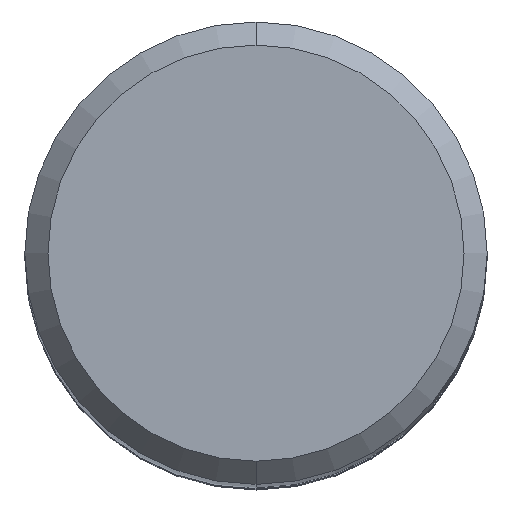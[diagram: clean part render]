
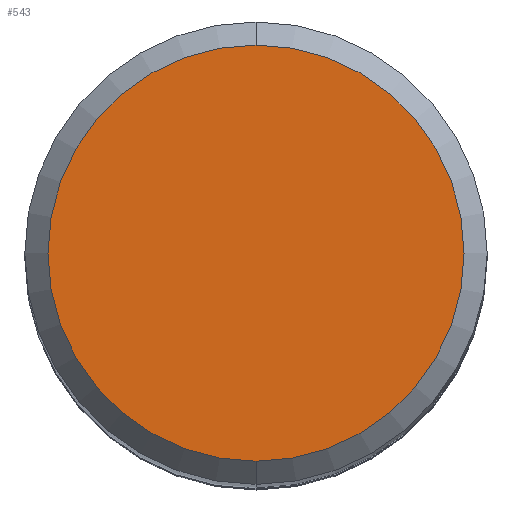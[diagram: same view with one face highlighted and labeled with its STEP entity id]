
A CAD part, top view. The second image highlights one B-rep face of the part: STEP entity #543.
In plain terms, the highlighted planar face has unit normal (0, 0, 1).
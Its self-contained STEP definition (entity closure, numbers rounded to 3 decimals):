
#235=EDGE_CURVE('',#271,#417,#611,.T.);
#271=VERTEX_POINT('',#651);
#417=VERTEX_POINT('',#817);
#431=EDGE_CURVE('',#417,#271,#833,.T.);
#543=ADVANCED_FACE('',(#956),#957,.T.);
#611=CIRCLE('',#1067,4.5);
#651=CARTESIAN_POINT('',(0.,-4.5,0.0));
#817=CARTESIAN_POINT('',(0.0,4.5,0.0));
#833=CIRCLE('',#1450,4.5);
#956=FACE_OUTER_BOUND('',#1711,.T.);
#957=PLANE('',#1712);
#1067=AXIS2_PLACEMENT_3D('',#1778,#1779,#1780);
#1450=AXIS2_PLACEMENT_3D('',#2042,#2043,#2044);
#1711=EDGE_LOOP('',(#2186,#2187));
#1712=AXIS2_PLACEMENT_3D('',#2188,#2189,#2190);
#1778=CARTESIAN_POINT('',(0.0,0.0,0.0));
#1779=DIRECTION('',(0.0,0.0,-1.0));
#1780=DIRECTION('',(0.0,1.0,0.0));
#2042=CARTESIAN_POINT('',(0.0,0.0,0.0));
#2043=DIRECTION('',(0.0,0.0,-1.0));
#2044=DIRECTION('',(0.0,1.0,0.0));
#2186=ORIENTED_EDGE('',*,*,#431,.F.);
#2187=ORIENTED_EDGE('',*,*,#235,.F.);
#2188=CARTESIAN_POINT('',(0.0,2.25,0.0));
#2189=DIRECTION('',(-0.0,0.0,1.0));
#2190=DIRECTION('',(0.0,-1.0,0.0));
